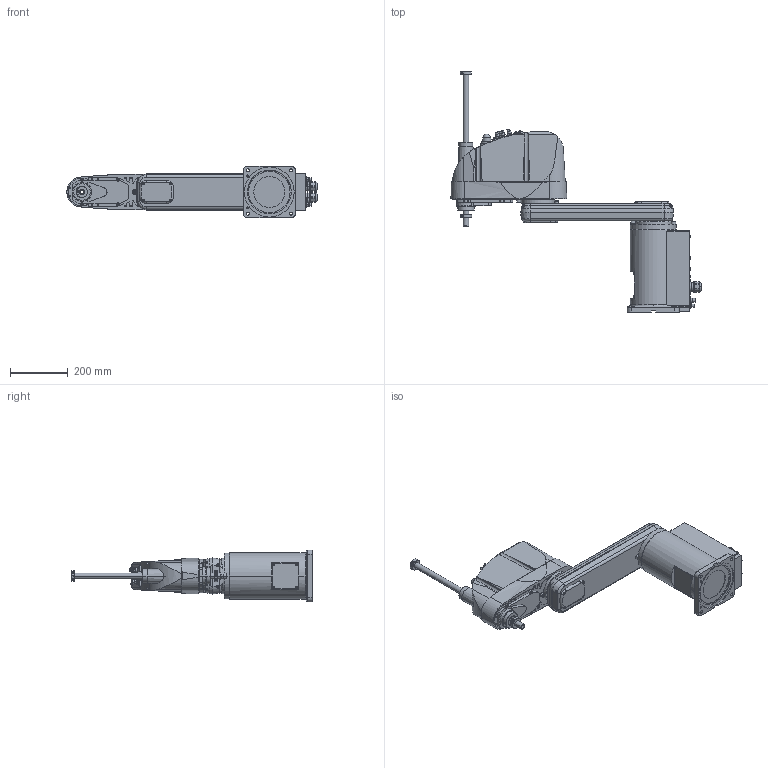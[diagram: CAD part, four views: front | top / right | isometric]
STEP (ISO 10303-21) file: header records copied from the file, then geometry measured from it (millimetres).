
FILE_DESCRIPTION( ( '' ), '1' );
FILE_NAME( '//expscmdclustefs.cadenas.external/client_exchange/iodir/jobs/output/wkb51543010_no0/STEP/G6_653S_2_03.stp', '2012-11-23T11:43:41', ( '' ), ( '' ), ' ', ' ', ' ' );
FILE_SCHEMA( ( 'CONFIG_CONTROL_DESIGN' ) );
Length unit declared in the file: millimetre
Products named in the file (4): 1; 2; 3; 4
Bounding box: 867.5 x 834 x 180 mm (x, y, z)
Volume: 20693139 mm3; surface area: 921662.9 mm2
Topology: 4 solids, 4 shells, 1576 faces, 3859 edges, 2484 vertices
Faces by surface type: plane 789, cylinder 533, cone 194, torus 59, sphere 1
Entity records: 49082 total; most frequent: CARTESIAN_POINT 10813, DIRECTION 8240, ORIENTED_EDGE 7666, EDGE_CURVE 3833, AXIS2_PLACEMENT_3D 2989, VERTEX_POINT 2484, LINE 2262, VECTOR 2262
